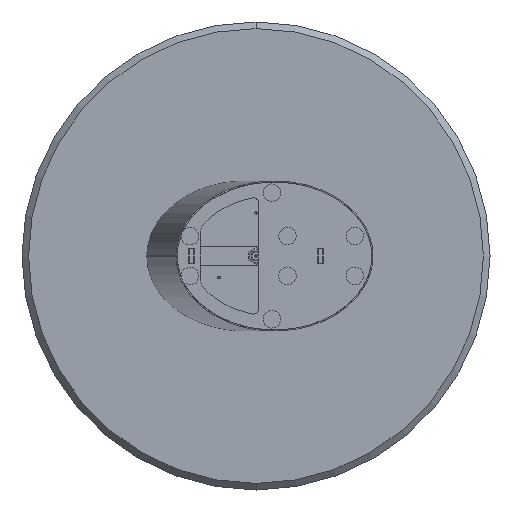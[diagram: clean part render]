
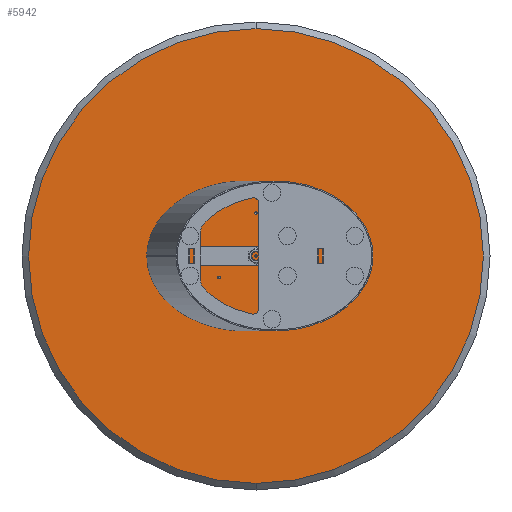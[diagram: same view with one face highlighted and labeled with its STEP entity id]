
A CAD part, front view. The second image highlights one B-rep face of the part: STEP entity #5942.
In plain terms, the highlighted planar face has unit normal (0, -1, 0).
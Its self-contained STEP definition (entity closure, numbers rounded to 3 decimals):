
#47 = ORIENTED_EDGE ( 'NONE', *, *, #6431, .F. ) ;
#131 = EDGE_LOOP ( 'NONE', ( #5180, #6653 ) ) ;
#280 = VERTEX_POINT ( 'NONE', #3972 ) ;
#354 = FACE_BOUND ( 'NONE', #6618, .T. ) ;
#427 = DIRECTION ( 'NONE',  ( 0., -1., 0. ) ) ;
#482 = CARTESIAN_POINT ( 'NONE',  ( 0., 0., 3.4 ) ) ;
#505 = DIRECTION ( 'NONE',  ( 0., -1., 0. ) ) ;
#635 = AXIS2_PLACEMENT_3D ( 'NONE', #4626, #1508, #4549 ) ;
#859 = CARTESIAN_POINT ( 'NONE',  ( -95., 0., -58.248 ) ) ;
#906 = EDGE_CURVE ( 'NONE', #6041, #7412, #7659, .T. ) ;
#968 = DIRECTION ( 'NONE',  ( 0., 0., -1. ) ) ;
#1142 = CIRCLE ( 'NONE', #6126, 3.4 ) ;
#1396 = DIRECTION ( 'NONE',  ( 0., -1., 0. ) ) ;
#1412 = EDGE_LOOP ( 'NONE', ( #3085, #3632 ) ) ;
#1502 = CARTESIAN_POINT ( 'NONE',  ( 95., 0., -58.248 ) ) ;
#1508 = DIRECTION ( 'NONE',  ( 0., -1., 0. ) ) ;
#1561 = EDGE_CURVE ( 'NONE', #6893, #3657, #7247, .T. ) ;
#1609 = VERTEX_POINT ( 'NONE', #6876 ) ;
#1616 = DIRECTION ( 'NONE',  ( 0., 0., -1. ) ) ;
#1638 = CARTESIAN_POINT ( 'NONE',  ( -95., 0., -54.848 ) ) ;
#1698 = CARTESIAN_POINT ( 'NONE',  ( 0., 0., 0. ) ) ;
#1895 = CARTESIAN_POINT ( 'NONE',  ( 0., 0., 109.697 ) ) ;
#1940 = EDGE_LOOP ( 'NONE', ( #3547, #7650 ) ) ;
#2240 = CARTESIAN_POINT ( 'NONE',  ( 95., 0., -54.848 ) ) ;
#2272 = ORIENTED_EDGE ( 'NONE', *, *, #7376, .F. ) ;
#2280 = CARTESIAN_POINT ( 'NONE',  ( 95., 0., -54.848 ) ) ;
#2334 = FACE_BOUND ( 'NONE', #1940, .T. ) ;
#2339 = CARTESIAN_POINT ( 'NONE',  ( 0., 0., 583. ) ) ;
#2397 = AXIS2_PLACEMENT_3D ( 'NONE', #1698, #7503, #3728 ) ;
#2525 = DIRECTION ( 'NONE',  ( 0., 0., -1. ) ) ;
#2621 = EDGE_CURVE ( 'NONE', #4789, #4161, #1142, .T. ) ;
#2718 = DIRECTION ( 'NONE',  ( 0., 0., -1. ) ) ;
#2774 = DIRECTION ( 'NONE',  ( 0., -1., 0. ) ) ;
#2799 = CIRCLE ( 'NONE', #7522, 3.4 ) ;
#2820 = AXIS2_PLACEMENT_3D ( 'NONE', #6759, #427, #968 ) ;
#2826 = AXIS2_PLACEMENT_3D ( 'NONE', #5978, #2774, #3922 ) ;
#2937 = FACE_BOUND ( 'NONE', #7579, .T. ) ;
#3085 = ORIENTED_EDGE ( 'NONE', *, *, #4602, .F. ) ;
#3220 = ORIENTED_EDGE ( 'NONE', *, *, #2621, .F. ) ;
#3547 = ORIENTED_EDGE ( 'NONE', *, *, #6518, .F. ) ;
#3632 = ORIENTED_EDGE ( 'NONE', *, *, #906, .F. ) ;
#3657 = VERTEX_POINT ( 'NONE', #2339 ) ;
#3687 = CARTESIAN_POINT ( 'NONE',  ( 0., 0., 0. ) ) ;
#3728 = DIRECTION ( 'NONE',  ( 0., 0., -1. ) ) ;
#3744 = CARTESIAN_POINT ( 'NONE',  ( 0., 0., 109.697 ) ) ;
#3922 = DIRECTION ( 'NONE',  ( 0., 0., -1. ) ) ;
#3972 = CARTESIAN_POINT ( 'NONE',  ( -95., 0., -51.448 ) ) ;
#4018 = CARTESIAN_POINT ( 'NONE',  ( 0., 0., 106.297 ) ) ;
#4111 = EDGE_CURVE ( 'NONE', #6082, #1609, #6969, .T. ) ;
#4153 = DIRECTION ( 'NONE',  ( 0., -1., 0. ) ) ;
#4161 = VERTEX_POINT ( 'NONE', #4018 ) ;
#4278 = PLANE ( 'NONE',  #4680 ) ;
#4549 = DIRECTION ( 'NONE',  ( 0., 0., -1. ) ) ;
#4553 = CIRCLE ( 'NONE', #2397, 583. ) ;
#4602 = EDGE_CURVE ( 'NONE', #7412, #6041, #2799, .T. ) ;
#4626 = CARTESIAN_POINT ( 'NONE',  ( 0., 0., 0. ) ) ;
#4680 = AXIS2_PLACEMENT_3D ( 'NONE', #3687, #4908, #7677 ) ;
#4789 = VERTEX_POINT ( 'NONE', #6815 ) ;
#4819 = CIRCLE ( 'NONE', #5231, 3.4 ) ;
#4849 = DIRECTION ( 'NONE',  ( 0., -1., 0. ) ) ;
#4908 = DIRECTION ( 'NONE',  ( 0., -1., 0. ) ) ;
#5039 = CARTESIAN_POINT ( 'NONE',  ( 95., 0., -51.448 ) ) ;
#5083 = VERTEX_POINT ( 'NONE', #859 ) ;
#5180 = ORIENTED_EDGE ( 'NONE', *, *, #6088, .T. ) ;
#5231 = AXIS2_PLACEMENT_3D ( 'NONE', #1638, #4849, #6796 ) ;
#5500 = FACE_BOUND ( 'NONE', #1412, .T. ) ;
#5616 = DIRECTION ( 'NONE',  ( 0., -1., 0. ) ) ;
#5753 = AXIS2_PLACEMENT_3D ( 'NONE', #2280, #5616, #7411 ) ;
#5942 = ADVANCED_FACE ( 'NONE', ( #354, #2937, #5500, #8167, #2334 ), #4278, .T. ) ;
#5978 = CARTESIAN_POINT ( 'NONE',  ( -95., 0., -54.848 ) ) ;
#6041 = VERTEX_POINT ( 'NONE', #5039 ) ;
#6082 = VERTEX_POINT ( 'NONE', #482 ) ;
#6088 = EDGE_CURVE ( 'NONE', #3657, #6893, #4553, .T. ) ;
#6126 = AXIS2_PLACEMENT_3D ( 'NONE', #3744, #6322, #2525 ) ;
#6313 = CIRCLE ( 'NONE', #7402, 3.4 ) ;
#6322 = DIRECTION ( 'NONE',  ( 0., -1., 0. ) ) ;
#6431 = EDGE_CURVE ( 'NONE', #5083, #280, #4819, .T. ) ;
#6446 = CARTESIAN_POINT ( 'NONE',  ( 0., 0., -583. ) ) ;
#6461 = CIRCLE ( 'NONE', #2826, 3.4 ) ;
#6518 = EDGE_CURVE ( 'NONE', #1609, #6082, #8351, .T. ) ;
#6618 = EDGE_LOOP ( 'NONE', ( #47, #2272 ) ) ;
#6642 = EDGE_CURVE ( 'NONE', #4161, #4789, #6313, .T. ) ;
#6653 = ORIENTED_EDGE ( 'NONE', *, *, #1561, .T. ) ;
#6759 = CARTESIAN_POINT ( 'NONE',  ( 0., 0., 0. ) ) ;
#6796 = DIRECTION ( 'NONE',  ( 0., 0., -1. ) ) ;
#6815 = CARTESIAN_POINT ( 'NONE',  ( 0., 0., 113.097 ) ) ;
#6876 = CARTESIAN_POINT ( 'NONE',  ( 0., 0., -3.4 ) ) ;
#6893 = VERTEX_POINT ( 'NONE', #6446 ) ;
#6969 = CIRCLE ( 'NONE', #8187, 3.4 ) ;
#7247 = CIRCLE ( 'NONE', #635, 583. ) ;
#7376 = EDGE_CURVE ( 'NONE', #280, #5083, #6461, .T. ) ;
#7402 = AXIS2_PLACEMENT_3D ( 'NONE', #1895, #505, #7611 ) ;
#7411 = DIRECTION ( 'NONE',  ( 0., 0., -1. ) ) ;
#7412 = VERTEX_POINT ( 'NONE', #1502 ) ;
#7503 = DIRECTION ( 'NONE',  ( 0., -1., 0. ) ) ;
#7522 = AXIS2_PLACEMENT_3D ( 'NONE', #2240, #4153, #1616 ) ;
#7579 = EDGE_LOOP ( 'NONE', ( #8355, #3220 ) ) ;
#7611 = DIRECTION ( 'NONE',  ( 0., 0., -1. ) ) ;
#7650 = ORIENTED_EDGE ( 'NONE', *, *, #4111, .F. ) ;
#7659 = CIRCLE ( 'NONE', #5753, 3.4 ) ;
#7677 = DIRECTION ( 'NONE',  ( 0., 0., -1. ) ) ;
#8167 = FACE_OUTER_BOUND ( 'NONE', #131, .T. ) ;
#8187 = AXIS2_PLACEMENT_3D ( 'NONE', #8336, #1396, #2718 ) ;
#8336 = CARTESIAN_POINT ( 'NONE',  ( 0., 0., 0. ) ) ;
#8351 = CIRCLE ( 'NONE', #2820, 3.4 ) ;
#8355 = ORIENTED_EDGE ( 'NONE', *, *, #6642, .F. ) ;
